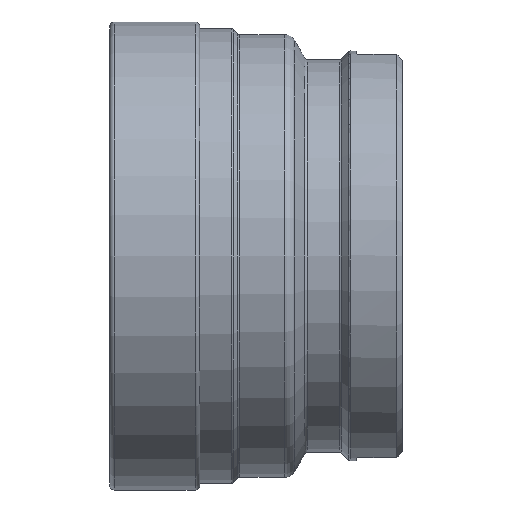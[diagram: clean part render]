
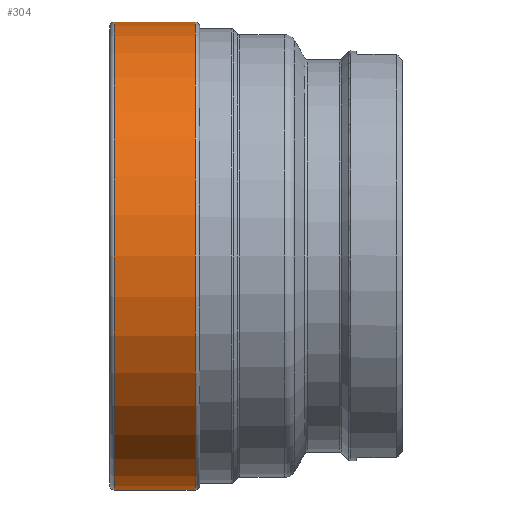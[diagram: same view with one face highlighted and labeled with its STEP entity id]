
A CAD part, front view. The second image highlights one B-rep face of the part: STEP entity #304.
In plain terms, the highlighted cylindrical face has radius 39.95 mm (diameter 79.9 mm), a full revolution.
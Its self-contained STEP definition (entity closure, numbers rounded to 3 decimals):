
#166=CYLINDRICAL_SURFACE('',#1129,39.95);
#304=ADVANCED_FACE('',(#407,#408),#166,.T.);
#407=FACE_BOUND('',#519,.T.);
#408=FACE_BOUND('',#520,.T.);
#519=EDGE_LOOP('',(#741));
#520=EDGE_LOOP('',(#742));
#741=ORIENTED_EDGE('',*,*,#948,.T.);
#742=ORIENTED_EDGE('',*,*,#949,.T.);
#837=VERTEX_POINT('',#1914);
#838=VERTEX_POINT('',#1916);
#948=EDGE_CURVE('',#837,#837,#1007,.T.);
#949=EDGE_CURVE('',#838,#838,#1008,.T.);
#1007=CIRCLE('',#1127,39.95);
#1008=CIRCLE('',#1128,39.95);
#1127=AXIS2_PLACEMENT_3D('',#1913,#1392,#1393);
#1128=AXIS2_PLACEMENT_3D('',#1915,#1394,#1395);
#1129=AXIS2_PLACEMENT_3D('',#1917,#1396,#1397);
#1392=DIRECTION('',(1.,0.,0.));
#1393=DIRECTION('',(0.,0.,-1.));
#1394=DIRECTION('',(-1.,0.,0.));
#1395=DIRECTION('',(0.,0.,1.));
#1396=DIRECTION('',(-1.,0.,0.));
#1397=DIRECTION('',(0.,0.,1.));
#1913=CARTESIAN_POINT('',(0.8,0.,0.));
#1914=CARTESIAN_POINT('',(0.8,0.,-39.95));
#1915=CARTESIAN_POINT('',(14.6,0.,0.));
#1916=CARTESIAN_POINT('',(14.6,0.,39.95));
#1917=CARTESIAN_POINT('',(0.,0.,0.));
